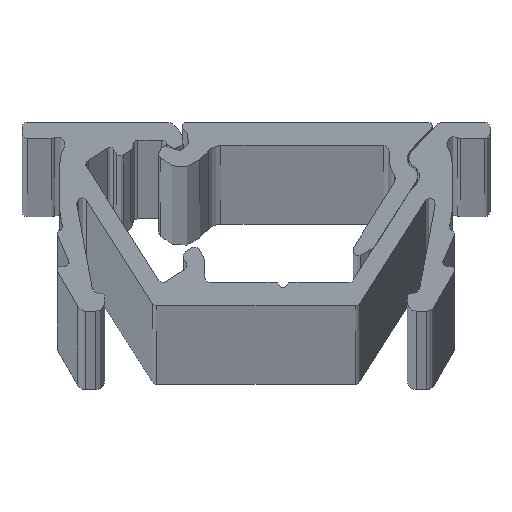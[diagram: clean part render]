
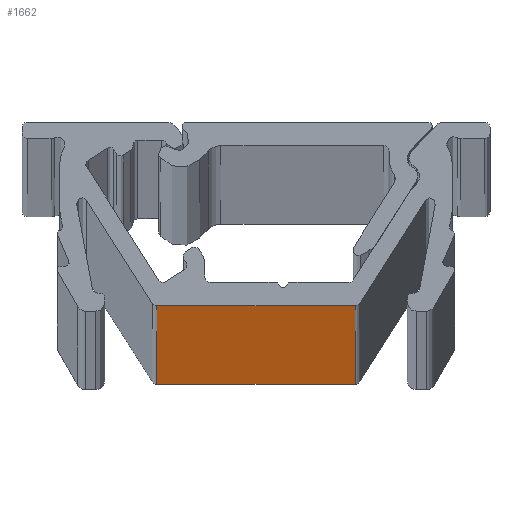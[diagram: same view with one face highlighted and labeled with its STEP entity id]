
A CAD part, top view. The second image highlights one B-rep face of the part: STEP entity #1662.
In plain terms, the highlighted planar face has unit normal (0, -1, 0).
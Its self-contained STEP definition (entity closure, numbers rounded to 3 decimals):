
#12 = EDGE_CURVE ( 'NONE', #3795, #2797, #2879, .T. ) ;
#104 = DIRECTION ( 'NONE',  ( 1., 0., 0. ) ) ;
#203 = VECTOR ( 'NONE', #104, 1000. ) ;
#332 = EDGE_CURVE ( 'NONE', #4791, #2797, #1991, .T. ) ;
#373 = VECTOR ( 'NONE', #2229, 1000. ) ;
#484 = DIRECTION ( 'NONE',  ( 0., 0., 1. ) ) ;
#514 = CARTESIAN_POINT ( 'NONE',  ( 5.512, 0.3, 0. ) ) ;
#619 = AXIS2_PLACEMENT_3D ( 'NONE', #949, #2475, #484 ) ;
#789 = EDGE_LOOP ( 'NONE', ( #4423, #2394, #4827, #4467 ) ) ;
#949 = CARTESIAN_POINT ( 'NONE',  ( -5.512, 0.3, 2500. ) ) ;
#1212 = LINE ( 'NONE', #4633, #3742 ) ;
#1478 = VERTEX_POINT ( 'NONE', #4820 ) ;
#1662 = ADVANCED_FACE ( 'NONE', ( #3002 ), #4730, .F. ) ;
#1682 = CARTESIAN_POINT ( 'NONE',  ( 5.512, 0.3, 2500. ) ) ;
#1991 = LINE ( 'NONE', #2068, #4127 ) ;
#2068 = CARTESIAN_POINT ( 'NONE',  ( 5.512, 0.3, 2500. ) ) ;
#2229 = DIRECTION ( 'NONE',  ( 0., 0., -1. ) ) ;
#2393 = CARTESIAN_POINT ( 'NONE',  ( -5.512, 0.3, 0. ) ) ;
#2394 = ORIENTED_EDGE ( 'NONE', *, *, #332, .F. ) ;
#2475 = DIRECTION ( 'NONE',  ( 0., 1., 0. ) ) ;
#2482 = CARTESIAN_POINT ( 'NONE',  ( -5.512, 0.3, 0. ) ) ;
#2737 = DIRECTION ( 'NONE',  ( 1., 0., 0. ) ) ;
#2797 = VERTEX_POINT ( 'NONE', #514 ) ;
#2879 = LINE ( 'NONE', #2482, #203 ) ;
#3002 = FACE_OUTER_BOUND ( 'NONE', #789, .T. ) ;
#3222 = DIRECTION ( 'NONE',  ( 0., 0., -1. ) ) ;
#3376 = LINE ( 'NONE', #4933, #373 ) ;
#3616 = EDGE_CURVE ( 'NONE', #1478, #3795, #3376, .T. ) ;
#3742 = VECTOR ( 'NONE', #2737, 1000. ) ;
#3795 = VERTEX_POINT ( 'NONE', #2393 ) ;
#4127 = VECTOR ( 'NONE', #3222, 1000. ) ;
#4236 = EDGE_CURVE ( 'NONE', #1478, #4791, #1212, .T. ) ;
#4423 = ORIENTED_EDGE ( 'NONE', *, *, #12, .T. ) ;
#4467 = ORIENTED_EDGE ( 'NONE', *, *, #3616, .T. ) ;
#4633 = CARTESIAN_POINT ( 'NONE',  ( -5.512, 0.3, 2500. ) ) ;
#4730 = PLANE ( 'NONE',  #619 ) ;
#4791 = VERTEX_POINT ( 'NONE', #1682 ) ;
#4820 = CARTESIAN_POINT ( 'NONE',  ( -5.512, 0.3, 2500. ) ) ;
#4827 = ORIENTED_EDGE ( 'NONE', *, *, #4236, .F. ) ;
#4933 = CARTESIAN_POINT ( 'NONE',  ( -5.512, 0.3, 2500. ) ) ;
